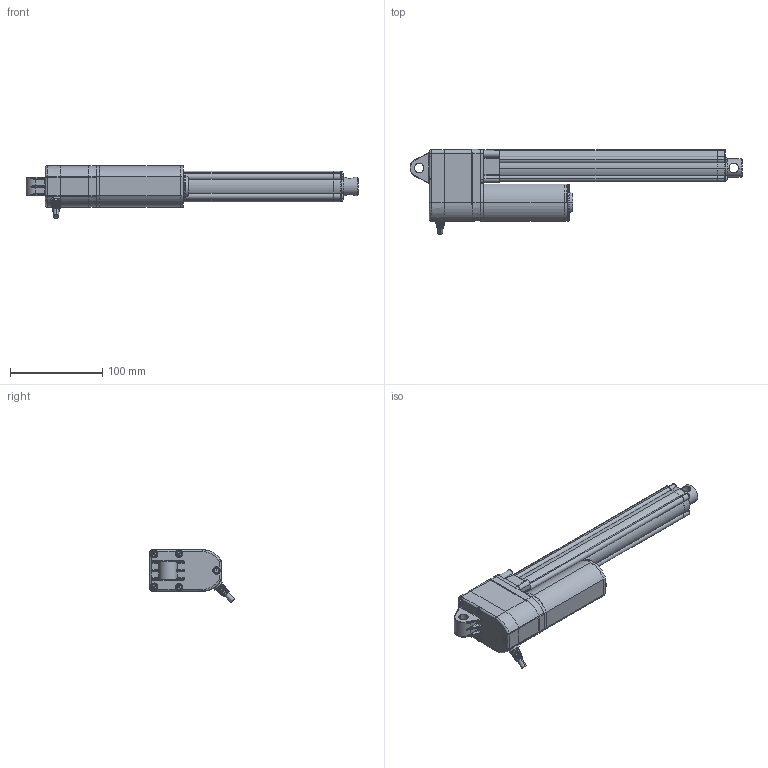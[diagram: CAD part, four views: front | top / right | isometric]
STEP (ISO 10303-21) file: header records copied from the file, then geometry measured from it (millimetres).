
FILE_DESCRIPTION(('STEP AP214'),'1');
FILE_NAME('dj809a2200340a2f021r02111112a01231030070036.stp','2023-10-30T07:00:42',('TraceParts'),('TraceParts S.A.'),'Spatial InterOp 3D',' ',' ');
FILE_SCHEMA(('AUTOMOTIVE_DESIGN { 1 0 10303 214 1 1 1 1 }'));
Length unit declared in the file: millimetre
Products named in the file (1): dj809a2200340a2f021r02111112a01231030070036
Bounding box: 359.11 x 92.14 x 56.99 mm (x, y, z)
Volume: 594598.3 mm3; surface area: 73478.2 mm2
Topology: 1 solids, 1 shells, 760 faces, 1997 edges, 1242 vertices
Faces by surface type: plane 305, cylinder 202, bspline 127, torus 76, cone 47, sphere 3
Entity records: 35887 total; most frequent: CARTESIAN_POINT 12100, ORIENTED_EDGE 3956, DIRECTION 3460, EDGE_CURVE 1978, AXIS2_PLACEMENT_3D 1315, VERTEX_POINT 1242, LINE 830, VECTOR 830
